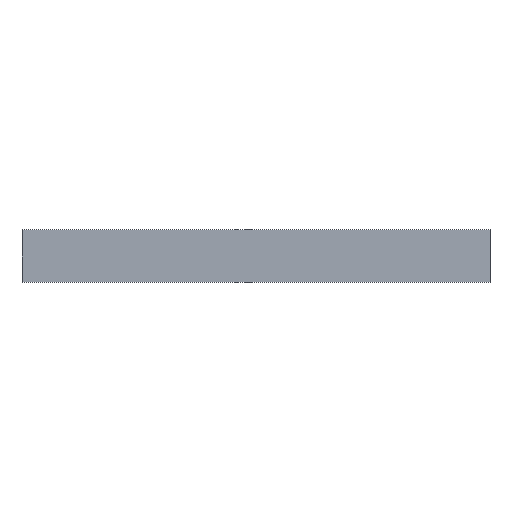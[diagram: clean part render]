
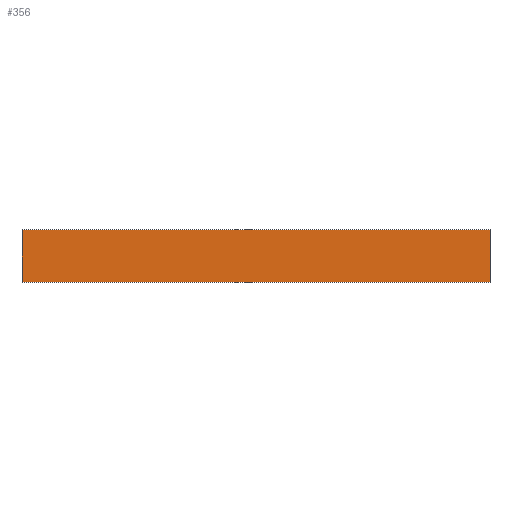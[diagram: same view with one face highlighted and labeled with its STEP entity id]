
A CAD part, top view. The second image highlights one B-rep face of the part: STEP entity #356.
In plain terms, the highlighted planar face has unit normal (0, 0, 1).
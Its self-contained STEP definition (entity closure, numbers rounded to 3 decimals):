
#42 = VERTEX_POINT('',#43);
#43 = CARTESIAN_POINT('',(0.,0.,0.6));
#50 = PLANE('',#51);
#51 = AXIS2_PLACEMENT_3D('',#52,#53,#54);
#52 = CARTESIAN_POINT('',(0.,0.,0.));
#53 = DIRECTION('',(1.,0.,-0.));
#54 = DIRECTION('',(0.,0.,1.));
#62 = PLANE('',#63);
#63 = AXIS2_PLACEMENT_3D('',#64,#65,#66);
#64 = CARTESIAN_POINT('',(0.,0.,0.));
#65 = DIRECTION('',(-0.,1.,0.));
#66 = DIRECTION('',(0.,0.,1.));
#103 = VERTEX_POINT('',#104);
#104 = CARTESIAN_POINT('',(0.,12.3,0.6));
#118 = PLANE('',#119);
#119 = AXIS2_PLACEMENT_3D('',#120,#121,#122);
#120 = CARTESIAN_POINT('',(0.,12.3,0.));
#121 = DIRECTION('',(-0.,1.,0.));
#122 = DIRECTION('',(0.,0.,1.));
#130 = EDGE_CURVE('',#42,#103,#131,.T.);
#131 = SURFACE_CURVE('',#132,(#136,#143),.PCURVE_S1.);
#132 = LINE('',#133,#134);
#133 = CARTESIAN_POINT('',(0.,0.,0.6));
#134 = VECTOR('',#135,1.);
#135 = DIRECTION('',(-0.,1.,0.));
#136 = PCURVE('',#50,#137);
#137 = DEFINITIONAL_REPRESENTATION('',(#138),#142);
#138 = LINE('',#139,#140);
#139 = CARTESIAN_POINT('',(0.6,0.));
#140 = VECTOR('',#141,1.);
#141 = DIRECTION('',(0.,-1.));
#142 = ( GEOMETRIC_REPRESENTATION_CONTEXT(2) 
PARAMETRIC_REPRESENTATION_CONTEXT() REPRESENTATION_CONTEXT('2D SPACE',''
  ) );
#143 = PCURVE('',#144,#149);
#144 = PLANE('',#145);
#145 = AXIS2_PLACEMENT_3D('',#146,#147,#148);
#146 = CARTESIAN_POINT('',(0.,0.,0.6));
#147 = DIRECTION('',(0.,0.,1.));
#148 = DIRECTION('',(1.,0.,-0.));
#149 = DEFINITIONAL_REPRESENTATION('',(#150),#154);
#150 = LINE('',#151,#152);
#151 = CARTESIAN_POINT('',(0.,0.));
#152 = VECTOR('',#153,1.);
#153 = DIRECTION('',(0.,1.));
#154 = ( GEOMETRIC_REPRESENTATION_CONTEXT(2) 
PARAMETRIC_REPRESENTATION_CONTEXT() REPRESENTATION_CONTEXT('2D SPACE',''
  ) );
#162 = VERTEX_POINT('',#163);
#163 = CARTESIAN_POINT('',(109.85,0.,0.6));
#170 = PLANE('',#171);
#171 = AXIS2_PLACEMENT_3D('',#172,#173,#174);
#172 = CARTESIAN_POINT('',(109.85,0.,0.));
#173 = DIRECTION('',(1.,0.,-0.));
#174 = DIRECTION('',(0.,0.,1.));
#213 = VERTEX_POINT('',#214);
#214 = CARTESIAN_POINT('',(109.85,12.3,0.6));
#235 = EDGE_CURVE('',#162,#213,#236,.T.);
#236 = SURFACE_CURVE('',#237,(#241,#248),.PCURVE_S1.);
#237 = LINE('',#238,#239);
#238 = CARTESIAN_POINT('',(109.85,0.,0.6));
#239 = VECTOR('',#240,1.);
#240 = DIRECTION('',(-0.,1.,0.));
#241 = PCURVE('',#170,#242);
#242 = DEFINITIONAL_REPRESENTATION('',(#243),#247);
#243 = LINE('',#244,#245);
#244 = CARTESIAN_POINT('',(0.6,0.));
#245 = VECTOR('',#246,1.);
#246 = DIRECTION('',(0.,-1.));
#247 = ( GEOMETRIC_REPRESENTATION_CONTEXT(2) 
PARAMETRIC_REPRESENTATION_CONTEXT() REPRESENTATION_CONTEXT('2D SPACE',''
  ) );
#248 = PCURVE('',#144,#249);
#249 = DEFINITIONAL_REPRESENTATION('',(#250),#254);
#250 = LINE('',#251,#252);
#251 = CARTESIAN_POINT('',(109.85,0.));
#252 = VECTOR('',#253,1.);
#253 = DIRECTION('',(0.,1.));
#254 = ( GEOMETRIC_REPRESENTATION_CONTEXT(2) 
PARAMETRIC_REPRESENTATION_CONTEXT() REPRESENTATION_CONTEXT('2D SPACE',''
  ) );
#281 = EDGE_CURVE('',#42,#162,#282,.T.);
#282 = SURFACE_CURVE('',#283,(#287,#294),.PCURVE_S1.);
#283 = LINE('',#284,#285);
#284 = CARTESIAN_POINT('',(0.,0.,0.6));
#285 = VECTOR('',#286,1.);
#286 = DIRECTION('',(1.,0.,-0.));
#287 = PCURVE('',#62,#288);
#288 = DEFINITIONAL_REPRESENTATION('',(#289),#293);
#289 = LINE('',#290,#291);
#290 = CARTESIAN_POINT('',(0.6,0.));
#291 = VECTOR('',#292,1.);
#292 = DIRECTION('',(0.,1.));
#293 = ( GEOMETRIC_REPRESENTATION_CONTEXT(2) 
PARAMETRIC_REPRESENTATION_CONTEXT() REPRESENTATION_CONTEXT('2D SPACE',''
  ) );
#294 = PCURVE('',#144,#295);
#295 = DEFINITIONAL_REPRESENTATION('',(#296),#300);
#296 = LINE('',#297,#298);
#297 = CARTESIAN_POINT('',(0.,0.));
#298 = VECTOR('',#299,1.);
#299 = DIRECTION('',(1.,0.));
#300 = ( GEOMETRIC_REPRESENTATION_CONTEXT(2) 
PARAMETRIC_REPRESENTATION_CONTEXT() REPRESENTATION_CONTEXT('2D SPACE',''
  ) );
#328 = EDGE_CURVE('',#103,#213,#329,.T.);
#329 = SURFACE_CURVE('',#330,(#334,#341),.PCURVE_S1.);
#330 = LINE('',#331,#332);
#331 = CARTESIAN_POINT('',(0.,12.3,0.6));
#332 = VECTOR('',#333,1.);
#333 = DIRECTION('',(1.,0.,-0.));
#334 = PCURVE('',#118,#335);
#335 = DEFINITIONAL_REPRESENTATION('',(#336),#340);
#336 = LINE('',#337,#338);
#337 = CARTESIAN_POINT('',(0.6,0.));
#338 = VECTOR('',#339,1.);
#339 = DIRECTION('',(0.,1.));
#340 = ( GEOMETRIC_REPRESENTATION_CONTEXT(2) 
PARAMETRIC_REPRESENTATION_CONTEXT() REPRESENTATION_CONTEXT('2D SPACE',''
  ) );
#341 = PCURVE('',#144,#342);
#342 = DEFINITIONAL_REPRESENTATION('',(#343),#347);
#343 = LINE('',#344,#345);
#344 = CARTESIAN_POINT('',(0.,12.3));
#345 = VECTOR('',#346,1.);
#346 = DIRECTION('',(1.,0.));
#347 = ( GEOMETRIC_REPRESENTATION_CONTEXT(2) 
PARAMETRIC_REPRESENTATION_CONTEXT() REPRESENTATION_CONTEXT('2D SPACE',''
  ) );
#356 = ADVANCED_FACE('',(#357),#144,.T.);
#357 = FACE_BOUND('',#358,.T.);
#358 = EDGE_LOOP('',(#359,#360,#361,#362));
#359 = ORIENTED_EDGE('',*,*,#130,.F.);
#360 = ORIENTED_EDGE('',*,*,#281,.T.);
#361 = ORIENTED_EDGE('',*,*,#235,.T.);
#362 = ORIENTED_EDGE('',*,*,#328,.F.);
